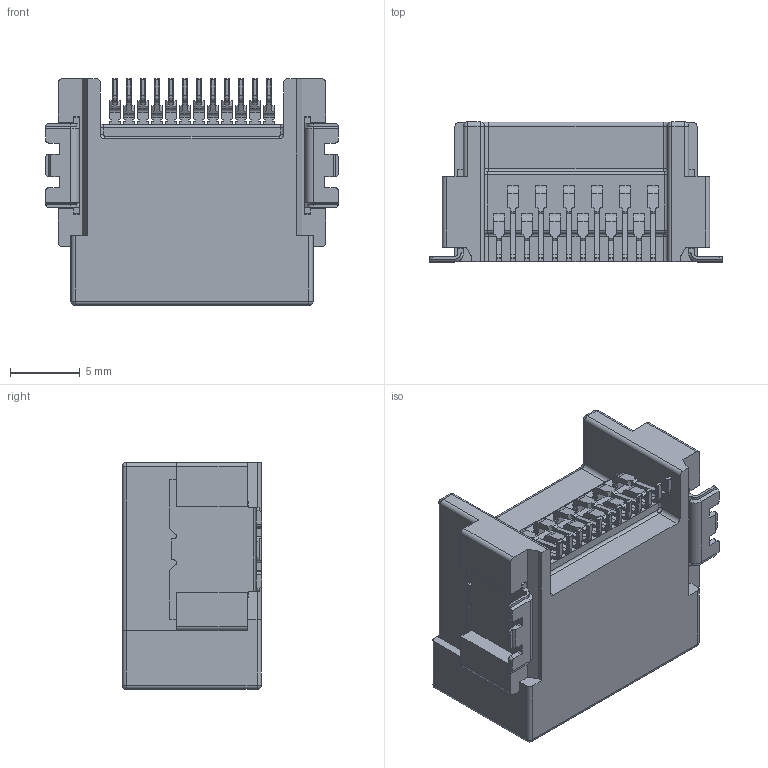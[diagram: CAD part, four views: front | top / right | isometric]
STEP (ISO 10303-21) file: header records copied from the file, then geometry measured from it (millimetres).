
FILE_DESCRIPTION (( 'STEP AP203' ), '1' );
FILE_NAME ('ISH 12P MALE CONNECTOR.STEP', '2018-08-20T12:05:27', ( '' ), ( '' ), 'SwSTEP 2.0', 'SolidWorks 2017', '' );
FILE_SCHEMA (( 'CONFIG_CONTROL_DESIGN' ));
Length unit declared in the file: millimetre
Products named in the file (2): ISH 12P MALE CONNECTOR; Part4^ISH 12P MALE CONNECTOR
Assembly tree (1 placements, depth 2):
  ISH 12P MALE CONNECTOR
    Part4^ISH 12P MALE CONNECTOR
Bounding box: 20.9 x 10 x 16.2 mm (x, y, z)
Volume: 2270 mm3; surface area: 1432.1 mm2
Topology: 1 solids, 1 shells, 734 faces, 2046 edges, 1316 vertices
Faces by surface type: plane 490, cylinder 194, cone 30, torus 10, sphere 10
Entity records: 23410 total; most frequent: CARTESIAN_POINT 4102, ORIENTED_EDGE 4072, DIRECTION 3930, EDGE_CURVE 2036, LINE 1610, VECTOR 1610, VERTEX_POINT 1316, AXIS2_PLACEMENT_3D 1160
